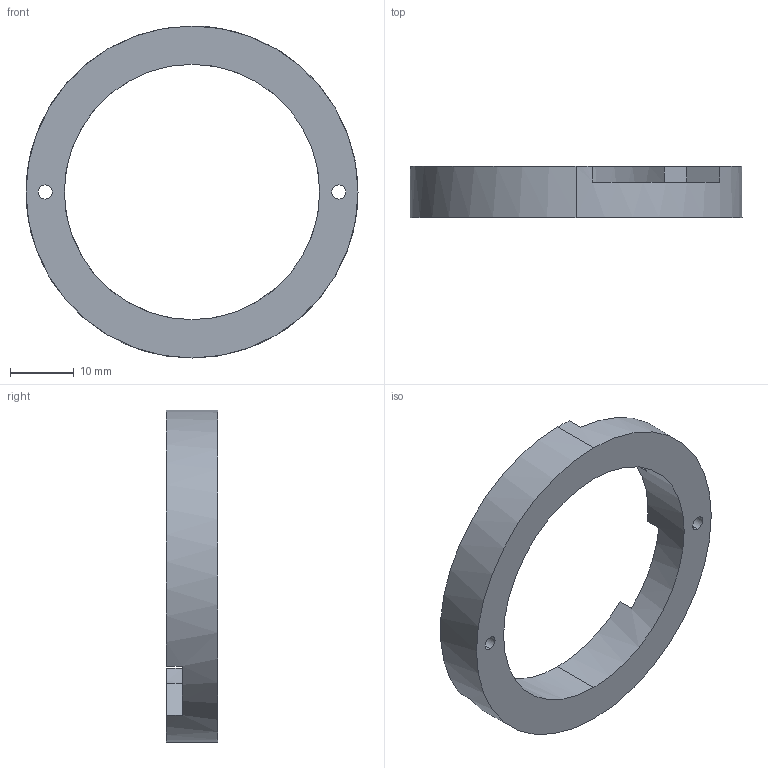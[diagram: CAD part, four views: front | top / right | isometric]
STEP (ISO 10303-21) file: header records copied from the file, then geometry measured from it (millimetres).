
FILE_DESCRIPTION (( 'STEP AP214' ), '1' );
FILE_NAME ('盓殤8mm.STEP', '2026-07-25T03:03:36', ( 'JQW' ), ( '' ), 'SwSTEP 2.0', 'SolidWorks 2024', '' );
FILE_SCHEMA (( 'AUTOMOTIVE_DESIGN' ));
Length unit declared in the file: millimetre
Products named in the file (1): 支架8mm
Bounding box: 52 x 8 x 52 mm (x, y, z)
Volume: 6159.8 mm3; surface area: 3993.1 mm2
Topology: 1 solids, 1 shells, 21 faces, 60 edges, 40 vertices
Faces by surface type: plane 13, cylinder 8
Entity records: 737 total; most frequent: DIRECTION 132, CARTESIAN_POINT 122, ORIENTED_EDGE 120, EDGE_CURVE 60, AXIS2_PLACEMENT_3D 50, VERTEX_POINT 40, VECTOR 32, LINE 32
